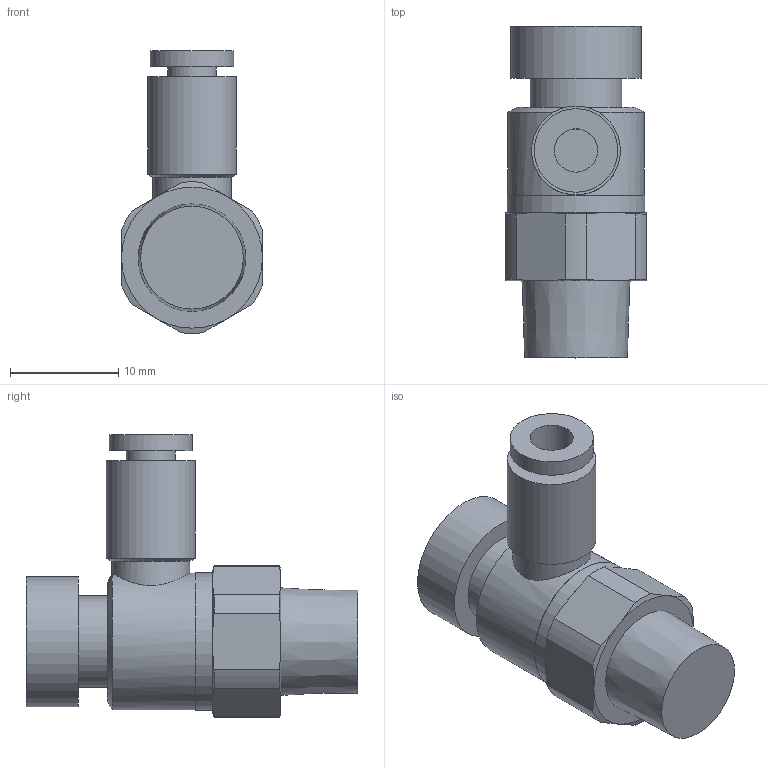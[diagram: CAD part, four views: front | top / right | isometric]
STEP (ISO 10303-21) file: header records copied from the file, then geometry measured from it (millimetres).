
FILE_DESCRIPTION(/* description */ ('STEP AP214'),/* implementation_level */ '2;1');
FILE_NAME(/* name */ 'AS2201F-01-04SA',/* time_stamp */ '2024-10-24T14:05:00+02:00',/* author */ ('License CC BY-ND 4.0'),/* organization */ ('CADENAS'),/* preprocessor_version */ 'ST-DEVELOPER v19.3',/* originating_system */ 'PARTsolutions',/* authorisation */ ' ');
FILE_SCHEMA (('AUTOMOTIVE_DESIGN {1 0 10303 214 3 1 1}'));
Length unit declared in the file: millimetre
Products named in the file (1): AS2201F-01-04SA
Bounding box: 13 x 30.6 x 26.09 mm (x, y, z)
Volume: 3789.4 mm3; surface area: 2072.2 mm2
Topology: 1 solids, 1 shells, 47 faces, 96 edges, 59 vertices
Faces by surface type: plane 17, cone 15, cylinder 15
Full cylindrical faces by diameter (mm): 4 x1, 4.5 x1, 7.2 x1, 7.7 x1, 8.2 x1, 8.45 x1, 12 x1, 12.6 x1, 12.7 x1
Entity records: 1225 total; most frequent: CARTESIAN_POINT 278, DIRECTION 196, ORIENTED_EDGE 164, AXIS2_PLACEMENT_3D 92, EDGE_CURVE 82, EDGE_LOOP 67, FACE_BOUND 67, VERTEX_POINT 57
